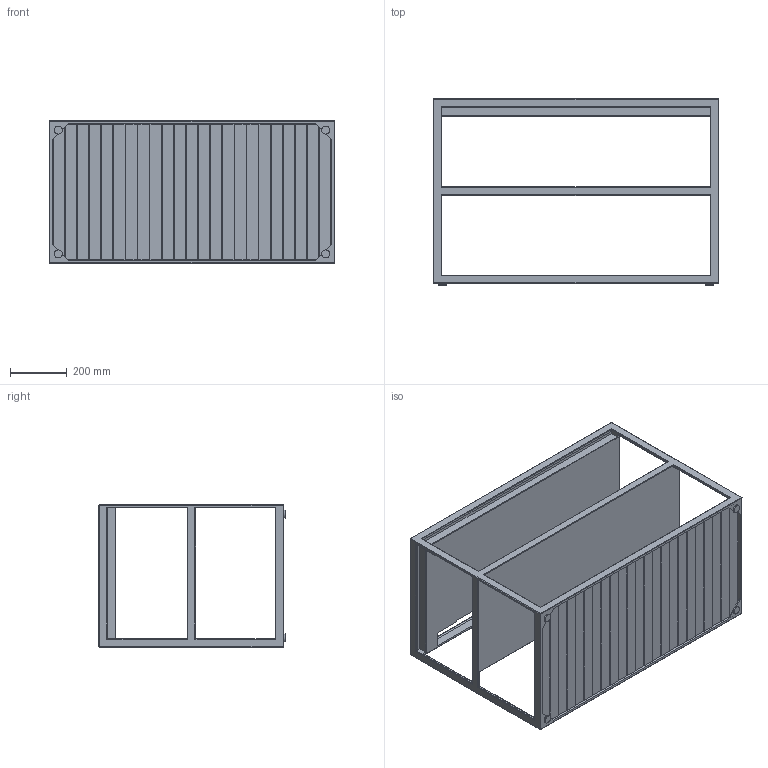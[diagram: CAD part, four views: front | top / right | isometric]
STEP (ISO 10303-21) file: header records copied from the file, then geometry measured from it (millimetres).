
FILE_DESCRIPTION(/* description */ (''),/* implementation_level */ '2;1');
FILE_NAME(/* name */ 'C:\INVENTOR\Workspace\# ARKITEKT FILER\Open Kitchen\OK 100\Open Kitchen 100 w Teak.stp',/* time_stamp */ '2020-05-06T14:49:53+02:00',/* author */ ('Röshults'),/* organization */ (''),/* preprocessor_version */ 'ST-DEVELOPER v17.2',/* originating_system */ 'Autodesk Inventor 2019',/* authorisation */ '');
FILE_SCHEMA (('AUTOMOTIVE_DESIGN { 1 0 10303 214 3 1 1 }'));
Length unit declared in the file: millimetre
Products named in the file (3): Open Kitchen 100 W Teak; Open Frame 100; Teak 100
Assembly tree (2 placements, depth 2):
  Open Kitchen 100 W Teak
    Open Frame 100
    Teak 100
Bounding box: 1004 x 655 x 500 mm (x, y, z)
Volume: 36687995.3 mm3; surface area: 4009430.2 mm2
Topology: 24 solids, 24 shells, 307 faces, 701 edges, 438 vertices
Faces by surface type: plane 220, cylinder 81, sphere 6
Full cylindrical faces by diameter (mm): 28 x4
Entity records: 8583 total; most frequent: CARTESIAN_POINT 1452, DIRECTION 1435, ORIENTED_EDGE 1402, EDGE_CURVE 701, LINE 593, VECTOR 593, VERTEX_POINT 438, AXIS2_PLACEMENT_3D 421
